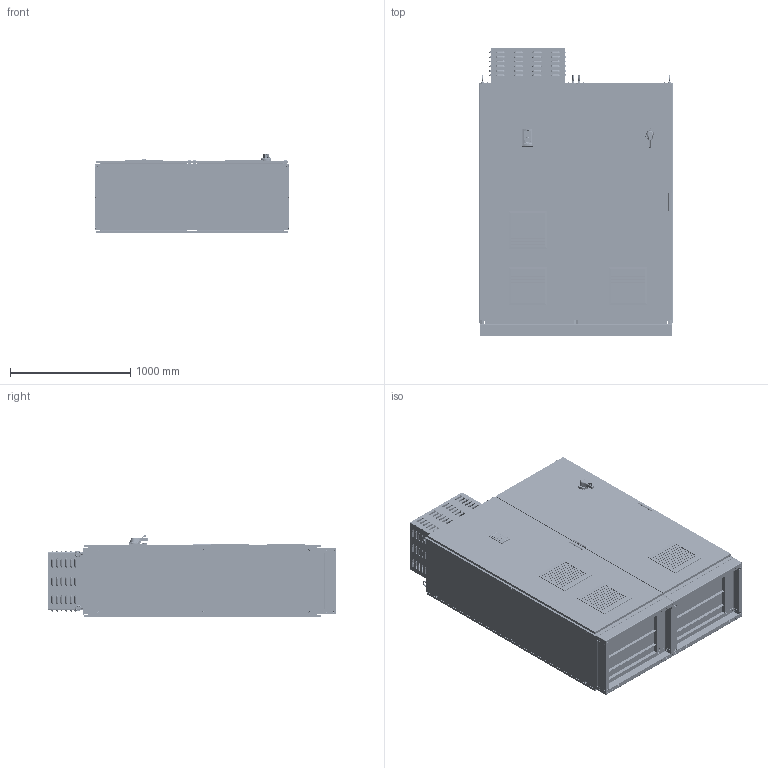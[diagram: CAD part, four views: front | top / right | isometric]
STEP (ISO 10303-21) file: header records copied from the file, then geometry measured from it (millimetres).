
FILE_DESCRIPTION (( 'STEP AP203' ), '1' );
FILE_NAME ('GEDR0350A64CR1XKX1U0-M4.STEP', '2019-07-19T13:55:18', ( 'root' ), ( '' ), 'SwSTEP 2.0', 'SolidWorks 2018', '' );
FILE_SCHEMA (( 'CONFIG_CONTROL_DESIGN' ));
Length unit declared in the file: millimetre
Products named in the file (27): 14839890_92147A029; 14837171; CFW11 MEC A_Controller_Assembly; 0395-8020-60-17_ROOF_FAN_CUTOUT; WEG LOGOS_ Label; NEMA_3R_GASKET_14837171; HANDLE_ONLY; 0396-7020-60-67; GEDR0350A64CR1XKX1U0-M4; NEMA_3R_GASKET_14837171_B; W101711-00-WEG_BASE; 0396-8001-60-17; 14837171_ASSEMBLY; W101711-00-WEG_SIDE; INTAKE VENT; 14411214; 3014T491_STEEL EYEBOLT WITH SHOULDER - FOR LIFTING_3014T491; 14404495; NEMA_3R_GASKET_14835323; 0395-8020-00-97; 14839888_90107A029; 96439A580_18-8 SS_.25 IN DIA.; 0395-8020-60-17; 14840089; 14835323; 14838150
Assembly tree (82 placements, depth 3):
  GEDR0350A64CR1XKX1U0-M4
    14838150
      0395-8020-60-17_ROOF_FAN_CUTOUT
      0396-7020-60-67  x2
      0396-8001-60-17  x2
      INTAKE VENT  x3
      3014T491_STEEL EYEBOLT WITH SHOULDER - FOR LIFTING_3014T491  x8
      0395-8020-00-97  x2
      0395-8020-60-17
    CFW11 MEC A_Controller_Assembly
    HANDLE_ONLY
    14835323
      W101711-00-WEG_BASE
      W101711-00-WEG_SIDE
      W101711-00-WEG_SIDE
      NEMA_3R_GASKET_14835323
      96439A580_18-8 SS_.25 IN DIA.  x14
    14837171_ASSEMBLY
      14837171
      NEMA_3R_GASKET_14837171
      NEMA_3R_GASKET_14837171_B  x4
    14411214
    14404495
    14839888_90107A029  x10
    14840089  x10
    14839890_92147A029  x10
    WEG LOGOS_ Label  x2
Bounding box: 1611 x 2393.93 x 686.47 mm (x, y, z)
Volume: 51093726.7 mm3; surface area: 47813922.2 mm2
Topology: 161 solids, 230 shells, 15396 faces, 41855 edges, 27426 vertices
Faces by surface type: plane 7195, cylinder 5622, cone 924, bspline 919, torus 396, sphere 340
Full cylindrical faces by diameter (mm): 2 x5, 2.54 x4, 3.556 x4, 6.858 x16, 7.137 x10, 7.62 x8, 12.7 x12, 15.875 x10, 101.6 x2, 137.16 x1, 238.76 x2, 243.84 x2, 319.304 x1, 355.6 x1, 368.84 x1, 419.64 x1, 421.64 x1
Entity records: 371102 total; most frequent: CARTESIAN_POINT 89909, ORIENTED_EDGE 57628, DIRECTION 56884, EDGE_CURVE 29170, AXIS2_PLACEMENT_3D 20438, VERTEX_POINT 19269, LINE 16008, VECTOR 16008
